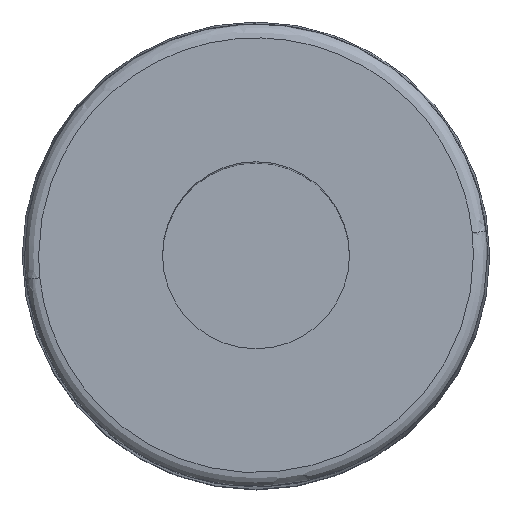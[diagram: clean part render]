
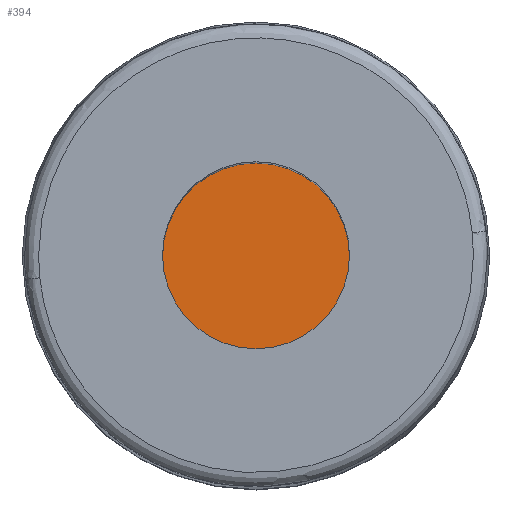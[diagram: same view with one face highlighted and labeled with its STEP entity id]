
A CAD part, top view. The second image highlights one B-rep face of the part: STEP entity #394.
In plain terms, the highlighted planar face has unit normal (0, 0, 1).
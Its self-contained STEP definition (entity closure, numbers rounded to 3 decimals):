
#84 = CARTESIAN_POINT ( 'NONE',  ( 2., 0., 22.8 ) ) ;
#310 = CIRCLE ( 'NONE', #1053, 2. ) ;
#394 = ADVANCED_FACE ( '7', ( #1564 ), #606, .T. ) ;
#481 = VERTEX_POINT ( 'NONE', #84 ) ;
#484 = CIRCLE ( 'NONE', #505, 2. ) ;
#505 = AXIS2_PLACEMENT_3D ( 'NONE', #536, #1338, #1025 ) ;
#536 = CARTESIAN_POINT ( 'NONE',  ( 0., 0., 22.8 ) ) ;
#606 = PLANE ( 'NONE',  #1326 ) ;
#640 = EDGE_CURVE ( 'NONE', #481, #812, #484, .T. ) ;
#695 = CARTESIAN_POINT ( 'NONE',  ( 2.4, -2.5, 22.8 ) ) ;
#716 = DIRECTION ( 'NONE',  ( 0., 0., 1. ) ) ;
#746 = DIRECTION ( 'NONE',  ( 1., 0., 0. ) ) ;
#812 = VERTEX_POINT ( 'NONE', #1182 ) ;
#1025 = DIRECTION ( 'NONE',  ( 1., 0., 0. ) ) ;
#1053 = AXIS2_PLACEMENT_3D ( 'NONE', #1318, #1309, #1295 ) ;
#1067 = EDGE_LOOP ( 'NONE', ( #1118, #1124 ) ) ;
#1118 = ORIENTED_EDGE ( 'NONE', *, *, #640, .T. ) ;
#1124 = ORIENTED_EDGE ( 'NONE', *, *, #1668, .T. ) ;
#1182 = CARTESIAN_POINT ( 'NONE',  ( -2., 0., 22.8 ) ) ;
#1295 = DIRECTION ( 'NONE',  ( 1., 0., 0. ) ) ;
#1309 = DIRECTION ( 'NONE',  ( 0., 0., 1. ) ) ;
#1318 = CARTESIAN_POINT ( 'NONE',  ( 0., 0., 22.8 ) ) ;
#1326 = AXIS2_PLACEMENT_3D ( 'NONE', #695, #716, #746 ) ;
#1338 = DIRECTION ( 'NONE',  ( 0., 0., 1. ) ) ;
#1564 = FACE_OUTER_BOUND ( 'NONE', #1067, .T. ) ;
#1668 = EDGE_CURVE ( 'NONE', #812, #481, #310, .T. ) ;
